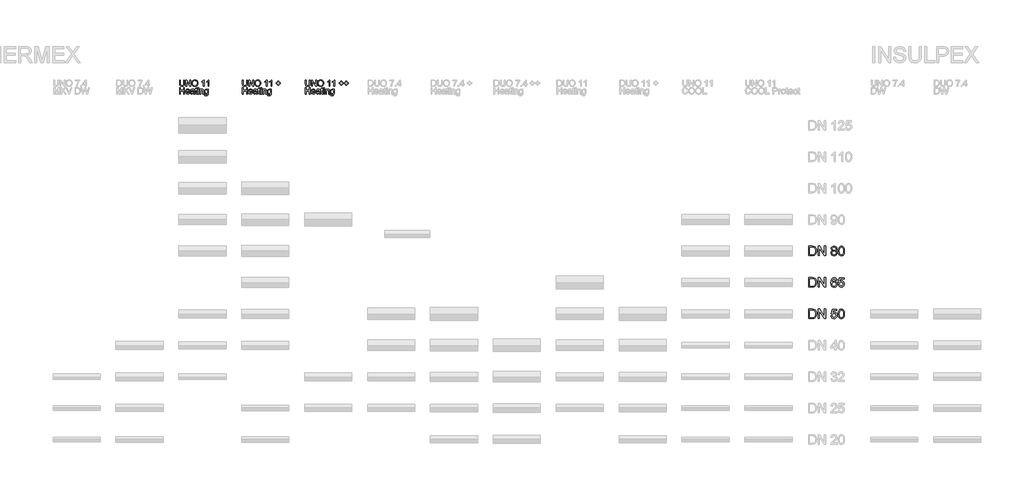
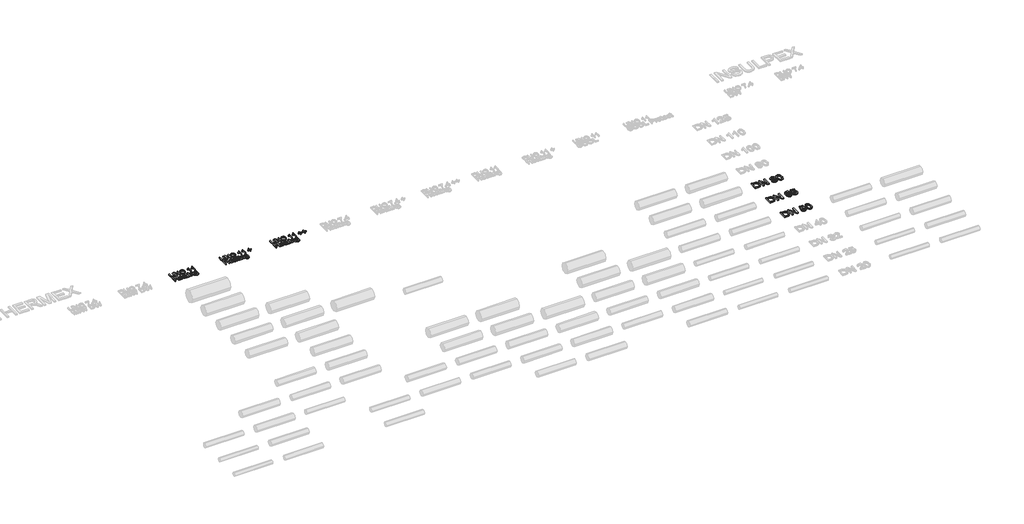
# One storey, part 31 of 44: 6 proxies.
"""IFC4 building model written with IfcOpenShell, lengths in millimetres."""

from ifc_helpers import new_model, si_unit, origin, origin_with_axes, place, context, project, spatial, polyline, outline, extrude, element, save

model = new_model("IFC4")

# Units and contexts
model_context = context("Model", 3, world=origin())
ifc_project = project(units=[si_unit("LENGTHUNIT", "METRE", prefix="MILLI")], contexts=[model_context])

# Site, building, storey
site = spatial("IfcSite", under=ifc_project)
building = spatial("IfcBuilding", under=site)
storey = spatial("IfcBuildingStorey", under=building, Name="REHAU Starting view", Elevation=0.0)

# Proxies
placement = place(None, origin())
element("IfcBuildingElementProxy", 1, Name="100", ObjectType="100", at=placement, inside=storey, context=model_context, shape_type="SweptSolid", body=[
    extrude(outline(polyline([(5076.9118625, 20222.431128), (5089.4689012, 20222.431128), (5089.4689012, 20164.477451), (5086.0598614, 20140.4547567), (5073.7726028, 20125.9847316), (5063.5086951, 20121.8000739), (5050.4734097, 20120.405188), (5027.529836, 20125.2612303), (5019.8901532, 20131.2055902), (5014.8011189, 20139.3265853), (5010.9874089, 20164.477451), (5010.9874089, 20222.431128), (5023.5444477, 20222.431128), (5023.5444477, 20164.9189094), (5026.0215198, 20145.7767829), (5034.5318566, 20136.2976902), (5049.2961874, 20132.9622268), (5062.067824, 20134.6115644), (5070.5597667, 20139.5595772), (5075.3238385, 20149.1980855), (5076.9118625, 20164.9189094), (5076.9118625, 20222.431128)])), origin_with_axes(), (0.0, 0.0, 1.0), 20.0),
    extrude(outline(polyline([(5111.4437191, 20121.9748178), (5111.4437191, 20222.431128), (5124.8836746, 20222.431128), (5177.3681726, 20142.8459897), (5177.3681726, 20222.431128), (5189.9252114, 20222.431128), (5189.9252114, 20121.9748178), (5176.4852558, 20121.9748178), (5124.0007578, 20201.5844816), (5124.0007578, 20121.9748178), (5111.4437191, 20121.9748178)])), origin_with_axes(), (0.0, 0.0, 1.0), 20.0),
    extrude(outline(polyline([(5207.1911397, 20170.8785977), (5210.5388658, 20193.0925389), (5220.5820443, 20209.8986147), (5235.9165921, 20220.4752221), (5255.1384264, 20224.0007578), (5268.3147332, 20222.3452889), (5280.1298766, 20217.3788819), (5289.9400631, 20209.4510249), (5297.1014993, 20198.9112058), (5301.479295, 20186.2683279), (5302.9385603, 20172.0312947), (5301.402653, 20157.6041891), (5296.794931, 20144.7835015), (5289.369846, 20134.2252883), (5279.3818499, 20126.5856055), (5267.667874, 20121.9502924), (5255.06485, 20120.405188), (5241.6862081, 20122.1127736), (5229.8036197, 20127.2355304), (5220.0179586, 20135.3105402), (5212.9300988, 20145.8748848), (5207.1911397, 20170.8785977)]), holes=[polyline([(5219.7481785, 20170.7559704), (5222.2589731, 20155.0412778), (5229.7913569, 20143.0667189), (5241.1129253, 20135.4883498), (5254.9912736, 20132.9622268), (5269.071957, 20135.5128753), (5280.4119195, 20143.1648208), (5287.889121, 20155.5072617), (5290.3815215, 20172.1293965), (5286.1140904, 20192.8534156), (5273.6428907, 20206.575414), (5255.2120028, 20211.4437191), (5241.7046022, 20209.0984714), (5230.2205526, 20202.0627282), (5222.366272, 20189.5455433), (5219.7481785, 20170.7559704)])]), origin_with_axes(), (0.0, 0.0, 1.0), 20.0),
    extrude(outline(polyline([(5401.8252406, 20121.9748178), (5389.2682018, 20121.9748178), (5389.2682018, 20200.2601064), (5377.3733507, 20191.7865578), (5364.1541243, 20185.4467247), (5364.1541243, 20197.3170505), (5382.5604868, 20209.0647488), (5393.7318367, 20222.431128), (5401.8252406, 20222.431128), (5401.8252406, 20121.9748178)])), origin_with_axes(), (0.0, 0.0, 1.0), 20.0),
    extrude(outline(polyline([(5478.7371031, 20121.9748178), (5466.1800643, 20121.9748178), (5466.1800643, 20200.2601064), (5454.2852131, 20191.7865578), (5441.0659868, 20185.4467247), (5441.0659868, 20197.3170505), (5459.4723492, 20209.0647488), (5470.6436992, 20222.431128), (5478.7371031, 20222.431128), (5478.7371031, 20121.9748178)])), origin_with_axes(), (0.0, 0.0, 1.0), 20.0),
    extrude(outline(polyline([(5010.9874089, 20000.0), (5010.9874089, 20100.4563101), (5023.5444477, 20100.4563101), (5023.5444477, 20059.6459342), (5076.9118625, 20059.6459342), (5076.9118625, 20100.4563101), (5089.4689012, 20100.4563101), (5089.4689012, 20000.0), (5076.9118625, 20000.0), (5076.9118625, 20047.0888954), (5023.5444477, 20047.0888954), (5023.5444477, 20000.0), (5010.9874089, 20000.0)])), origin_with_axes(), (0.0, 0.0, 1.0), 20.0),
    extrude(outline(polyline([(5161.5247213, 20021.9748178), (5173.8365055, 20020.405188), (5169.4004617, 20011.1284304), (5162.321799, 20004.1938547), (5152.7599328, 19999.8712413), (5140.8742787, 19998.4303702), (5126.1406048, 20000.9166393), (5114.803708, 20008.3754468), (5107.5748268, 20020.3224146), (5105.1651997, 20036.2731647), (5107.5993522, 20052.7604095), (5114.9018098, 20065.0905877), (5126.0854225, 20072.7793214), (5140.1630402, 20075.3422326), (5153.8022651, 20072.7854527), (5164.7007692, 20065.1151131), (5171.846877, 20052.8094604), (5174.2289129, 20036.3467411), (5174.1553365, 20032.9622268), (5117.7222385, 20032.9622268), (5119.8958079, 20023.5628418), (5124.9449883, 20016.6527916), (5132.2321175, 20012.4037546), (5141.1195333, 20010.9874089), (5153.4313175, 20013.6116338), (5161.5247213, 20021.9748178)]), holes=[polyline([(5117.7222385, 20045.5192655), (5161.6718741, 20045.5192655), (5156.6441535, 20056.8990819), (5149.3233018, 20061.3136659), (5140.1139892, 20062.7851938), (5124.6506827, 20058.088567), (5119.7854433, 20052.5979283), (5117.7222385, 20045.5192655)])]), origin_with_axes(), (0.0, 0.0, 1.0), 20.0),
    extrude(outline(polyline([(5233.8748471, 20009.4177791), (5221.697953, 20000.9074423), (5208.2457347, 19998.4303702), (5197.7519008, 19999.9202922), (5190.0110505, 20004.3900585), (5185.2377816, 20011.1774813), (5183.646692, 20019.6203731), (5186.0501877, 20029.5531869), (5192.3654953, 20036.7636741), (5201.157875, 20040.8839524), (5212.0226566, 20042.7724133), (5233.8012707, 20047.0888954), (5233.8748471, 20049.8847985), (5230.4167563, 20059.1554248), (5216.5353424, 20062.7851938), (5203.8311508, 20060.3694354), (5197.7733606, 20051.7977849), (5185.2163218, 20053.3674148), (5190.6487126, 20065.6301479), (5201.5870706, 20072.8161096), (5218.1540231, 20075.3422326), (5233.372075, 20073.1104152), (5241.968251, 20067.5063461), (5245.8187492, 20058.9837466), (5246.4318858, 20047.9963376), (5246.4318858, 20032.3736156), (5247.069548, 20010.5582133), (5249.5711455, 20000.0), (5237.0141068, 20000.0), (5233.8748471, 20009.4177791)]), holes=[polyline([(5233.8748471, 20034.5318566), (5213.6168119, 20030.6813584), (5202.8133439, 20028.6457447), (5197.9205134, 20025.3348067), (5196.2037308, 20020.5032899), (5199.9438644, 20013.7097357), (5210.9190106, 20010.9874089), (5223.6232021, 20013.9917785), (5231.8147079, 20021.2635793), (5233.8012707, 20030.975664), (5233.8748471, 20034.5318566)])]), origin_with_axes(), (0.0, 0.0, 1.0), 20.0),
    extrude(outline(polyline([(5290.3815215, 20010.4723741), (5291.9511514, 19999.632118), (5282.5578978, 19998.4303702), (5272.0364727, 20000.5150348), (5266.7880229, 20005.9842138), (5265.267444, 20020.2335097), (5265.267444, 20061.215564), (5255.8496649, 20061.215564), (5255.8496649, 20073.7726028), (5265.267444, 20073.7726028), (5265.267444, 20091.7007187), (5277.8244828, 20099.082884), (5277.8244828, 20073.7726028), (5290.3815215, 20073.7726028), (5290.3815215, 20061.215564), (5277.8244828, 20061.215564), (5277.8244828, 20020.6013917), (5278.4866703, 20014.1266686), (5280.6326487, 20011.8335375), (5284.9123425, 20010.9874089), (5290.3815215, 20010.4723741)])), origin_with_axes(), (0.0, 0.0, 1.0), 20.0),
    extrude(outline(polyline([(5302.9385603, 20087.8992714), (5302.9385603, 20100.4563101), (5315.4955991, 20100.4563101), (5315.4955991, 20087.8992714), (5302.9385603, 20087.8992714)])), origin_with_axes(), (0.0, 0.0, 1.0), 20.0),
    extrude(outline(polyline([(5302.9385603, 20000.0), (5302.9385603, 20073.7726028), (5315.4955991, 20073.7726028), (5315.4955991, 20000.0), (5302.9385603, 20000.0)])), origin_with_axes(), (0.0, 0.0, 1.0), 20.0),
    extrude(outline(polyline([(5334.3311572, 20000.0), (5334.3311572, 20073.7726028), (5346.888196, 20073.7726028), (5346.888196, 20063.4719069), (5356.4899161, 20072.3746512), (5369.5987778, 20075.3422326), (5381.4568408, 20072.9509996), (5389.5502447, 20066.6724803), (5393.3149038, 20057.4386422), (5393.9770914, 20045.2985363), (5393.9770914, 20000.0), (5381.4200526, 20000.0), (5381.4200526, 20043.6062792), (5379.9730501, 20054.7163154), (5374.8594904, 20060.5901646), (5366.2387889, 20062.7851938), (5352.6148924, 20057.8555751), (5348.3198701, 20050.712533), (5346.888196, 20039.1426443), (5346.888196, 20000.0), (5334.3311572, 20000.0)])), origin_with_axes(), (0.0, 0.0, 1.0), 20.0),
    extrude(outline(polyline([(5408.10376, 19993.7214806), (5420.6607988, 19992.1518508), (5424.7320262, 19985.5299749), (5436.9211829, 19982.7340717), (5449.7725273, 19985.8978569), (5455.9038939, 19994.7760757), (5456.7622852, 20009.4177791), (5447.9208546, 20002.3544448), (5437.1419121, 20000.0), (5424.1955316, 20002.7407209), (5414.5416949, 20010.9628835), (5408.5360213, 20023.0171502), (5406.5341301, 20037.2541834), (5410.127111, 20056.7151409), (5420.5259087, 20070.4861903), (5436.5287755, 20075.3422326), (5447.7307822, 20072.5953804), (5456.7622852, 20064.3548237), (5456.7622852, 20073.7726028), (5469.319324, 20073.7726028), (5469.319324, 20010.0799667), (5465.8857587, 19985.6893904), (5455.0087144, 19974.3463622), (5436.6759283, 19970.1770329), (5424.9926092, 19971.6454952), (5415.7924937, 19976.0508821), (5409.8910533, 19983.4054563), (5408.10376, 19993.7214806)]), holes=[polyline([(5419.0911689, 20038.1125747), (5420.4308725, 20026.5948026), (5424.4499833, 20018.6761426), (5430.4924451, 20014.0868147), (5437.9022016, 20012.5570388), (5445.2567758, 20014.0776177), (5451.3298944, 20018.6393544), (5455.4041875, 20026.4568468), (5456.7622852, 20037.7446927), (5455.3643336, 20048.6309341), (5451.1704789, 20056.4698863), (5445.0084555, 20061.2063669), (5437.7059979, 20062.7851938), (5430.5353646, 20061.2308924), (5424.5235597, 20056.5679881), (5420.4492666, 20048.8455319), (5419.0911689, 20038.1125747)])]), origin_with_axes(), (0.0, 0.0, 1.0), 20.0),
])
element("IfcBuildingElementProxy", 2, Name="100", ObjectType="100", at=placement, inside=storey, context=model_context, shape_type="SweptSolid", body=[
    extrude(outline(polyline([(6076.9118625, 20222.431128), (6089.4689012, 20222.431128), (6089.4689012, 20164.477451), (6086.0598614, 20140.4547567), (6073.7726028, 20125.9847316), (6063.5086951, 20121.8000739), (6050.4734097, 20120.405188), (6027.529836, 20125.2612303), (6019.8901532, 20131.2055902), (6014.8011189, 20139.3265853), (6010.9874089, 20164.477451), (6010.9874089, 20222.431128), (6023.5444477, 20222.431128), (6023.5444477, 20164.9189094), (6026.0215198, 20145.7767829), (6034.5318566, 20136.2976902), (6049.2961874, 20132.9622268), (6062.067824, 20134.6115644), (6070.5597667, 20139.5595772), (6075.3238385, 20149.1980855), (6076.9118625, 20164.9189094), (6076.9118625, 20222.431128)])), origin_with_axes(), (0.0, 0.0, 1.0), 20.0),
    extrude(outline(polyline([(6111.4437191, 20121.9748178), (6111.4437191, 20222.431128), (6124.8836746, 20222.431128), (6177.3681726, 20142.8459897), (6177.3681726, 20222.431128), (6189.9252114, 20222.431128), (6189.9252114, 20121.9748178), (6176.4852558, 20121.9748178), (6124.0007578, 20201.5844816), (6124.0007578, 20121.9748178), (6111.4437191, 20121.9748178)])), origin_with_axes(), (0.0, 0.0, 1.0), 20.0),
    extrude(outline(polyline([(6207.1911397, 20170.8785977), (6210.5388658, 20193.0925389), (6220.5820443, 20209.8986147), (6235.9165921, 20220.4752221), (6255.1384264, 20224.0007578), (6268.3147332, 20222.3452889), (6280.1298766, 20217.3788819), (6289.9400631, 20209.4510249), (6297.1014993, 20198.9112058), (6301.479295, 20186.2683279), (6302.9385603, 20172.0312947), (6301.402653, 20157.6041891), (6296.794931, 20144.7835015), (6289.369846, 20134.2252883), (6279.3818499, 20126.5856055), (6267.667874, 20121.9502924), (6255.06485, 20120.405188), (6241.6862081, 20122.1127736), (6229.8036197, 20127.2355304), (6220.0179586, 20135.3105402), (6212.9300988, 20145.8748848), (6207.1911397, 20170.8785977)]), holes=[polyline([(6219.7481785, 20170.7559704), (6222.2589731, 20155.0412778), (6229.7913569, 20143.0667189), (6241.1129253, 20135.4883498), (6254.9912736, 20132.9622268), (6269.071957, 20135.5128753), (6280.4119195, 20143.1648208), (6287.889121, 20155.5072617), (6290.3815215, 20172.1293965), (6286.1140904, 20192.8534156), (6273.6428907, 20206.575414), (6255.2120028, 20211.4437191), (6241.7046022, 20209.0984714), (6230.2205526, 20202.0627282), (6222.366272, 20189.5455433), (6219.7481785, 20170.7559704)])]), origin_with_axes(), (0.0, 0.0, 1.0), 20.0),
    extrude(outline(polyline([(6401.8252406, 20121.9748178), (6389.2682018, 20121.9748178), (6389.2682018, 20200.2601064), (6377.3733507, 20191.7865578), (6364.1541243, 20185.4467247), (6364.1541243, 20197.3170505), (6382.5604868, 20209.0647488), (6393.7318367, 20222.431128), (6401.8252406, 20222.431128), (6401.8252406, 20121.9748178)])), origin_with_axes(), (0.0, 0.0, 1.0), 20.0),
    extrude(outline(polyline([(6478.7371031, 20121.9748178), (6466.1800643, 20121.9748178), (6466.1800643, 20200.2601064), (6454.2852131, 20191.7865578), (6441.0659868, 20185.4467247), (6441.0659868, 20197.3170505), (6459.4723492, 20209.0647488), (6470.6436992, 20222.431128), (6478.7371031, 20222.431128), (6478.7371031, 20121.9748178)])), origin_with_axes(), (0.0, 0.0, 1.0), 20.0),
    extrude(outline(polyline([(6576.0541535, 20137.6711163), (6576.0541535, 20164.3548237), (6549.3704461, 20164.3548237), (6549.3704461, 20176.9118625), (6576.0541535, 20176.9118625), (6576.0541535, 20203.5955698), (6588.6111923, 20203.5955698), (6588.6111923, 20176.9118625), (6615.2948997, 20176.9118625), (6615.2948997, 20164.3548237), (6588.6111923, 20164.3548237), (6588.6111923, 20137.6711163), (6576.0541535, 20137.6711163)])), origin_with_axes(), (0.0, 0.0, 1.0), 20.0),
    extrude(outline(polyline([(6010.9874089, 20000.0), (6010.9874089, 20100.4563101), (6023.5444477, 20100.4563101), (6023.5444477, 20059.6459342), (6076.9118625, 20059.6459342), (6076.9118625, 20100.4563101), (6089.4689012, 20100.4563101), (6089.4689012, 20000.0), (6076.9118625, 20000.0), (6076.9118625, 20047.0888954), (6023.5444477, 20047.0888954), (6023.5444477, 20000.0), (6010.9874089, 20000.0)])), origin_with_axes(), (0.0, 0.0, 1.0), 20.0),
    extrude(outline(polyline([(6161.5247213, 20021.9748178), (6173.8365055, 20020.405188), (6169.4004617, 20011.1284304), (6162.321799, 20004.1938547), (6152.7599328, 19999.8712413), (6140.8742787, 19998.4303702), (6126.1406048, 20000.9166393), (6114.803708, 20008.3754468), (6107.5748268, 20020.3224146), (6105.1651997, 20036.2731647), (6107.5993522, 20052.7604095), (6114.9018098, 20065.0905877), (6126.0854225, 20072.7793214), (6140.1630402, 20075.3422326), (6153.8022651, 20072.7854527), (6164.7007692, 20065.1151131), (6171.846877, 20052.8094604), (6174.2289129, 20036.3467411), (6174.1553365, 20032.9622268), (6117.7222385, 20032.9622268), (6119.8958079, 20023.5628418), (6124.9449883, 20016.6527916), (6132.2321175, 20012.4037546), (6141.1195333, 20010.9874089), (6153.4313175, 20013.6116338), (6161.5247213, 20021.9748178)]), holes=[polyline([(6117.7222385, 20045.5192655), (6161.6718741, 20045.5192655), (6156.6441535, 20056.8990819), (6149.3233018, 20061.3136659), (6140.1139892, 20062.7851938), (6124.6506827, 20058.088567), (6119.7854433, 20052.5979283), (6117.7222385, 20045.5192655)])]), origin_with_axes(), (0.0, 0.0, 1.0), 20.0),
    extrude(outline(polyline([(6233.8748471, 20009.4177791), (6221.697953, 20000.9074423), (6208.2457347, 19998.4303702), (6197.7519008, 19999.9202922), (6190.0110505, 20004.3900585), (6185.2377816, 20011.1774813), (6183.646692, 20019.6203731), (6186.0501877, 20029.5531869), (6192.3654953, 20036.7636741), (6201.157875, 20040.8839524), (6212.0226566, 20042.7724133), (6233.8012707, 20047.0888954), (6233.8748471, 20049.8847985), (6230.4167563, 20059.1554248), (6216.5353424, 20062.7851938), (6203.8311508, 20060.3694354), (6197.7733606, 20051.7977849), (6185.2163218, 20053.3674148), (6190.6487126, 20065.6301479), (6201.5870706, 20072.8161096), (6218.1540231, 20075.3422326), (6233.372075, 20073.1104152), (6241.968251, 20067.5063461), (6245.8187492, 20058.9837466), (6246.4318858, 20047.9963376), (6246.4318858, 20032.3736156), (6247.069548, 20010.5582133), (6249.5711455, 20000.0), (6237.0141068, 20000.0), (6233.8748471, 20009.4177791)]), holes=[polyline([(6233.8748471, 20034.5318566), (6213.6168119, 20030.6813584), (6202.8133439, 20028.6457447), (6197.9205134, 20025.3348067), (6196.2037308, 20020.5032899), (6199.9438644, 20013.7097357), (6210.9190106, 20010.9874089), (6223.6232021, 20013.9917785), (6231.8147079, 20021.2635793), (6233.8012707, 20030.975664), (6233.8748471, 20034.5318566)])]), origin_with_axes(), (0.0, 0.0, 1.0), 20.0),
    extrude(outline(polyline([(6290.3815215, 20010.4723741), (6291.9511514, 19999.632118), (6282.5578978, 19998.4303702), (6272.0364727, 20000.5150348), (6266.7880229, 20005.9842138), (6265.267444, 20020.2335097), (6265.267444, 20061.215564), (6255.8496649, 20061.215564), (6255.8496649, 20073.7726028), (6265.267444, 20073.7726028), (6265.267444, 20091.7007187), (6277.8244828, 20099.082884), (6277.8244828, 20073.7726028), (6290.3815215, 20073.7726028), (6290.3815215, 20061.215564), (6277.8244828, 20061.215564), (6277.8244828, 20020.6013917), (6278.4866703, 20014.1266686), (6280.6326487, 20011.8335375), (6284.9123425, 20010.9874089), (6290.3815215, 20010.4723741)])), origin_with_axes(), (0.0, 0.0, 1.0), 20.0),
    extrude(outline(polyline([(6302.9385603, 20087.8992714), (6302.9385603, 20100.4563101), (6315.4955991, 20100.4563101), (6315.4955991, 20087.8992714), (6302.9385603, 20087.8992714)])), origin_with_axes(), (0.0, 0.0, 1.0), 20.0),
    extrude(outline(polyline([(6302.9385603, 20000.0), (6302.9385603, 20073.7726028), (6315.4955991, 20073.7726028), (6315.4955991, 20000.0), (6302.9385603, 20000.0)])), origin_with_axes(), (0.0, 0.0, 1.0), 20.0),
    extrude(outline(polyline([(6334.3311572, 20000.0), (6334.3311572, 20073.7726028), (6346.888196, 20073.7726028), (6346.888196, 20063.4719069), (6356.4899161, 20072.3746512), (6369.5987778, 20075.3422326), (6381.4568408, 20072.9509996), (6389.5502447, 20066.6724803), (6393.3149038, 20057.4386422), (6393.9770914, 20045.2985363), (6393.9770914, 20000.0), (6381.4200526, 20000.0), (6381.4200526, 20043.6062792), (6379.9730501, 20054.7163154), (6374.8594904, 20060.5901646), (6366.2387889, 20062.7851938), (6352.6148924, 20057.8555751), (6348.3198701, 20050.712533), (6346.888196, 20039.1426443), (6346.888196, 20000.0), (6334.3311572, 20000.0)])), origin_with_axes(), (0.0, 0.0, 1.0), 20.0),
    extrude(outline(polyline([(6408.10376, 19993.7214806), (6420.6607988, 19992.1518508), (6424.7320262, 19985.5299749), (6436.9211829, 19982.7340717), (6449.7725273, 19985.8978569), (6455.9038939, 19994.7760757), (6456.7622852, 20009.4177791), (6447.9208546, 20002.3544448), (6437.1419121, 20000.0), (6424.1955316, 20002.7407209), (6414.5416949, 20010.9628835), (6408.5360213, 20023.0171502), (6406.5341301, 20037.2541834), (6410.127111, 20056.7151409), (6420.5259087, 20070.4861903), (6436.5287755, 20075.3422326), (6447.7307822, 20072.5953804), (6456.7622852, 20064.3548237), (6456.7622852, 20073.7726028), (6469.319324, 20073.7726028), (6469.319324, 20010.0799667), (6465.8857587, 19985.6893904), (6455.0087144, 19974.3463622), (6436.6759283, 19970.1770329), (6424.9926092, 19971.6454952), (6415.7924937, 19976.0508821), (6409.8910533, 19983.4054563), (6408.10376, 19993.7214806)]), holes=[polyline([(6419.0911689, 20038.1125747), (6420.4308725, 20026.5948026), (6424.4499833, 20018.6761426), (6430.4924451, 20014.0868147), (6437.9022016, 20012.5570388), (6445.2567758, 20014.0776177), (6451.3298944, 20018.6393544), (6455.4041875, 20026.4568468), (6456.7622852, 20037.7446927), (6455.3643336, 20048.6309341), (6451.1704789, 20056.4698863), (6445.0084555, 20061.2063669), (6437.7059979, 20062.7851938), (6430.5353646, 20061.2308924), (6424.5235597, 20056.5679881), (6420.4492666, 20048.8455319), (6419.0911689, 20038.1125747)])]), origin_with_axes(), (0.0, 0.0, 1.0), 20.0),
])
element("IfcBuildingElementProxy", 3, Name="100", ObjectType="100", at=placement, inside=storey, context=model_context, shape_type="SweptSolid", body=[
    extrude(outline(polyline([(7076.9118625, 20222.431128), (7089.4689012, 20222.431128), (7089.4689012, 20164.477451), (7086.0598614, 20140.4547567), (7073.7726028, 20125.9847316), (7063.5086951, 20121.8000739), (7050.4734097, 20120.405188), (7027.529836, 20125.2612303), (7019.8901532, 20131.2055902), (7014.8011189, 20139.3265853), (7010.9874089, 20164.477451), (7010.9874089, 20222.431128), (7023.5444477, 20222.431128), (7023.5444477, 20164.9189094), (7026.0215198, 20145.7767829), (7034.5318566, 20136.2976902), (7049.2961874, 20132.9622268), (7062.067824, 20134.6115644), (7070.5597667, 20139.5595772), (7075.3238385, 20149.1980855), (7076.9118625, 20164.9189094), (7076.9118625, 20222.431128)])), origin_with_axes(), (0.0, 0.0, 1.0), 20.0),
    extrude(outline(polyline([(7111.4437191, 20121.9748178), (7111.4437191, 20222.431128), (7124.8836746, 20222.431128), (7177.3681726, 20142.8459897), (7177.3681726, 20222.431128), (7189.9252114, 20222.431128), (7189.9252114, 20121.9748178), (7176.4852558, 20121.9748178), (7124.0007578, 20201.5844816), (7124.0007578, 20121.9748178), (7111.4437191, 20121.9748178)])), origin_with_axes(), (0.0, 0.0, 1.0), 20.0),
    extrude(outline(polyline([(7207.1911397, 20170.8785977), (7210.5388658, 20193.0925389), (7220.5820443, 20209.8986147), (7235.9165921, 20220.4752221), (7255.1384264, 20224.0007578), (7268.3147332, 20222.3452889), (7280.1298766, 20217.3788819), (7289.9400631, 20209.4510249), (7297.1014993, 20198.9112058), (7301.479295, 20186.2683279), (7302.9385603, 20172.0312947), (7301.402653, 20157.6041891), (7296.794931, 20144.7835015), (7289.369846, 20134.2252883), (7279.3818499, 20126.5856055), (7267.667874, 20121.9502924), (7255.06485, 20120.405188), (7241.6862081, 20122.1127736), (7229.8036197, 20127.2355304), (7220.0179586, 20135.3105402), (7212.9300988, 20145.8748848), (7207.1911397, 20170.8785977)]), holes=[polyline([(7219.7481785, 20170.7559704), (7222.2589731, 20155.0412778), (7229.7913569, 20143.0667189), (7241.1129253, 20135.4883498), (7254.9912736, 20132.9622268), (7269.071957, 20135.5128753), (7280.4119195, 20143.1648208), (7287.889121, 20155.5072617), (7290.3815215, 20172.1293965), (7286.1140904, 20192.8534156), (7273.6428907, 20206.575414), (7255.2120028, 20211.4437191), (7241.7046022, 20209.0984714), (7230.2205526, 20202.0627282), (7222.366272, 20189.5455433), (7219.7481785, 20170.7559704)])]), origin_with_axes(), (0.0, 0.0, 1.0), 20.0),
    extrude(outline(polyline([(7401.8252406, 20121.9748178), (7389.2682018, 20121.9748178), (7389.2682018, 20200.2601064), (7377.3733507, 20191.7865578), (7364.1541243, 20185.4467247), (7364.1541243, 20197.3170505), (7382.5604868, 20209.0647488), (7393.7318367, 20222.431128), (7401.8252406, 20222.431128), (7401.8252406, 20121.9748178)])), origin_with_axes(), (0.0, 0.0, 1.0), 20.0),
    extrude(outline(polyline([(7478.7371031, 20121.9748178), (7466.1800643, 20121.9748178), (7466.1800643, 20200.2601064), (7454.2852131, 20191.7865578), (7441.0659868, 20185.4467247), (7441.0659868, 20197.3170505), (7459.4723492, 20209.0647488), (7470.6436992, 20222.431128), (7478.7371031, 20222.431128), (7478.7371031, 20121.9748178)])), origin_with_axes(), (0.0, 0.0, 1.0), 20.0),
    extrude(outline(polyline([(7576.0541535, 20137.6711163), (7576.0541535, 20164.3548237), (7549.3704461, 20164.3548237), (7549.3704461, 20176.9118625), (7576.0541535, 20176.9118625), (7576.0541535, 20203.5955698), (7588.6111923, 20203.5955698), (7588.6111923, 20176.9118625), (7615.2948997, 20176.9118625), (7615.2948997, 20164.3548237), (7588.6111923, 20164.3548237), (7588.6111923, 20137.6711163), (7576.0541535, 20137.6711163)])), origin_with_axes(), (0.0, 0.0, 1.0), 20.0),
    extrude(outline(polyline([(7657.6749055, 20137.6711163), (7657.6749055, 20164.3548237), (7630.9911981, 20164.3548237), (7630.9911981, 20176.9118625), (7657.6749055, 20176.9118625), (7657.6749055, 20203.5955698), (7670.2319443, 20203.5955698), (7670.2319443, 20176.9118625), (7696.9156517, 20176.9118625), (7696.9156517, 20164.3548237), (7670.2319443, 20164.3548237), (7670.2319443, 20137.6711163), (7657.6749055, 20137.6711163)])), origin_with_axes(), (0.0, 0.0, 1.0), 20.0),
    extrude(outline(polyline([(7010.9874089, 20000.0), (7010.9874089, 20100.4563101), (7023.5444477, 20100.4563101), (7023.5444477, 20059.6459342), (7076.9118625, 20059.6459342), (7076.9118625, 20100.4563101), (7089.4689012, 20100.4563101), (7089.4689012, 20000.0), (7076.9118625, 20000.0), (7076.9118625, 20047.0888954), (7023.5444477, 20047.0888954), (7023.5444477, 20000.0), (7010.9874089, 20000.0)])), origin_with_axes(), (0.0, 0.0, 1.0), 20.0),
    extrude(outline(polyline([(7161.5247213, 20021.9748178), (7173.8365055, 20020.405188), (7169.4004617, 20011.1284304), (7162.321799, 20004.1938547), (7152.7599328, 19999.8712413), (7140.8742787, 19998.4303702), (7126.1406048, 20000.9166393), (7114.803708, 20008.3754468), (7107.5748268, 20020.3224146), (7105.1651997, 20036.2731647), (7107.5993522, 20052.7604095), (7114.9018098, 20065.0905877), (7126.0854225, 20072.7793214), (7140.1630402, 20075.3422326), (7153.8022651, 20072.7854527), (7164.7007692, 20065.1151131), (7171.846877, 20052.8094604), (7174.2289129, 20036.3467411), (7174.1553365, 20032.9622268), (7117.7222385, 20032.9622268), (7119.8958079, 20023.5628418), (7124.9449883, 20016.6527916), (7132.2321175, 20012.4037546), (7141.1195333, 20010.9874089), (7153.4313175, 20013.6116338), (7161.5247213, 20021.9748178)]), holes=[polyline([(7117.7222385, 20045.5192655), (7161.6718741, 20045.5192655), (7156.6441535, 20056.8990819), (7149.3233018, 20061.3136659), (7140.1139892, 20062.7851938), (7124.6506827, 20058.088567), (7119.7854433, 20052.5979283), (7117.7222385, 20045.5192655)])]), origin_with_axes(), (0.0, 0.0, 1.0), 20.0),
    extrude(outline(polyline([(7233.8748471, 20009.4177791), (7221.697953, 20000.9074423), (7208.2457347, 19998.4303702), (7197.7519008, 19999.9202922), (7190.0110505, 20004.3900585), (7185.2377816, 20011.1774813), (7183.646692, 20019.6203731), (7186.0501877, 20029.5531869), (7192.3654953, 20036.7636741), (7201.157875, 20040.8839524), (7212.0226566, 20042.7724133), (7233.8012707, 20047.0888954), (7233.8748471, 20049.8847985), (7230.4167563, 20059.1554248), (7216.5353424, 20062.7851938), (7203.8311508, 20060.3694354), (7197.7733606, 20051.7977849), (7185.2163218, 20053.3674148), (7190.6487126, 20065.6301479), (7201.5870706, 20072.8161096), (7218.1540231, 20075.3422326), (7233.372075, 20073.1104152), (7241.968251, 20067.5063461), (7245.8187492, 20058.9837466), (7246.4318858, 20047.9963376), (7246.4318858, 20032.3736156), (7247.069548, 20010.5582133), (7249.5711455, 20000.0), (7237.0141068, 20000.0), (7233.8748471, 20009.4177791)]), holes=[polyline([(7233.8748471, 20034.5318566), (7213.6168119, 20030.6813584), (7202.8133439, 20028.6457447), (7197.9205134, 20025.3348067), (7196.2037308, 20020.5032899), (7199.9438644, 20013.7097357), (7210.9190106, 20010.9874089), (7223.6232021, 20013.9917785), (7231.8147079, 20021.2635793), (7233.8012707, 20030.975664), (7233.8748471, 20034.5318566)])]), origin_with_axes(), (0.0, 0.0, 1.0), 20.0),
    extrude(outline(polyline([(7290.3815215, 20010.4723741), (7291.9511514, 19999.632118), (7282.5578978, 19998.4303702), (7272.0364727, 20000.5150348), (7266.7880229, 20005.9842138), (7265.267444, 20020.2335097), (7265.267444, 20061.215564), (7255.8496649, 20061.215564), (7255.8496649, 20073.7726028), (7265.267444, 20073.7726028), (7265.267444, 20091.7007187), (7277.8244828, 20099.082884), (7277.8244828, 20073.7726028), (7290.3815215, 20073.7726028), (7290.3815215, 20061.215564), (7277.8244828, 20061.215564), (7277.8244828, 20020.6013917), (7278.4866703, 20014.1266686), (7280.6326487, 20011.8335375), (7284.9123425, 20010.9874089), (7290.3815215, 20010.4723741)])), origin_with_axes(), (0.0, 0.0, 1.0), 20.0),
    extrude(outline(polyline([(7302.9385603, 20087.8992714), (7302.9385603, 20100.4563101), (7315.4955991, 20100.4563101), (7315.4955991, 20087.8992714), (7302.9385603, 20087.8992714)])), origin_with_axes(), (0.0, 0.0, 1.0), 20.0),
    extrude(outline(polyline([(7302.9385603, 20000.0), (7302.9385603, 20073.7726028), (7315.4955991, 20073.7726028), (7315.4955991, 20000.0), (7302.9385603, 20000.0)])), origin_with_axes(), (0.0, 0.0, 1.0), 20.0),
    extrude(outline(polyline([(7334.3311572, 20000.0), (7334.3311572, 20073.7726028), (7346.888196, 20073.7726028), (7346.888196, 20063.4719069), (7356.4899161, 20072.3746512), (7369.5987778, 20075.3422326), (7381.4568408, 20072.9509996), (7389.5502447, 20066.6724803), (7393.3149038, 20057.4386422), (7393.9770914, 20045.2985363), (7393.9770914, 20000.0), (7381.4200526, 20000.0), (7381.4200526, 20043.6062792), (7379.9730501, 20054.7163154), (7374.8594904, 20060.5901646), (7366.2387889, 20062.7851938), (7352.6148924, 20057.8555751), (7348.3198701, 20050.712533), (7346.888196, 20039.1426443), (7346.888196, 20000.0), (7334.3311572, 20000.0)])), origin_with_axes(), (0.0, 0.0, 1.0), 20.0),
    extrude(outline(polyline([(7408.10376, 19993.7214806), (7420.6607988, 19992.1518508), (7424.7320262, 19985.5299749), (7436.9211829, 19982.7340717), (7449.7725273, 19985.8978569), (7455.9038939, 19994.7760757), (7456.7622852, 20009.4177791), (7447.9208546, 20002.3544448), (7437.1419121, 20000.0), (7424.1955316, 20002.7407209), (7414.5416949, 20010.9628835), (7408.5360213, 20023.0171502), (7406.5341301, 20037.2541834), (7410.127111, 20056.7151409), (7420.5259087, 20070.4861903), (7436.5287755, 20075.3422326), (7447.7307822, 20072.5953804), (7456.7622852, 20064.3548237), (7456.7622852, 20073.7726028), (7469.319324, 20073.7726028), (7469.319324, 20010.0799667), (7465.8857587, 19985.6893904), (7455.0087144, 19974.3463622), (7436.6759283, 19970.1770329), (7424.9926092, 19971.6454952), (7415.7924937, 19976.0508821), (7409.8910533, 19983.4054563), (7408.10376, 19993.7214806)]), holes=[polyline([(7419.0911689, 20038.1125747), (7420.4308725, 20026.5948026), (7424.4499833, 20018.6761426), (7430.4924451, 20014.0868147), (7437.9022016, 20012.5570388), (7445.2567758, 20014.0776177), (7451.3298944, 20018.6393544), (7455.4041875, 20026.4568468), (7456.7622852, 20037.7446927), (7455.3643336, 20048.6309341), (7451.1704789, 20056.4698863), (7445.0084555, 20061.2063669), (7437.7059979, 20062.7851938), (7430.5353646, 20061.2308924), (7424.5235597, 20056.5679881), (7420.4492666, 20048.8455319), (7419.0911689, 20038.1125747)])]), origin_with_axes(), (0.0, 0.0, 1.0), 20.0),
])
element("IfcBuildingElementProxy", 4, Name="150", ObjectType="150", at=placement, inside=storey, context=model_context, shape_type="SweptSolid", body=[
    extrude(outline(polyline([(15016.4811134, 16425.0), (15016.4811134, 16575.6844652), (15068.4628393, 16575.6844652), (15095.3550131, 16573.5139615), (15117.5015093, 16562.735019), (15127.9217668, 16551.2571007), (15135.343786, 16536.9832793), (15139.7859611, 16520.1894663), (15141.2666861, 16501.151573), (15137.2567724, 16470.7461261), (15126.9560765, 16448.8019651), (15113.1972899, 16435.135149), (15095.1894663, 16427.575174), (15070.9644369, 16425.0), (15016.4811134, 16425.0)]), holes=[polyline([(15035.3166715, 16443.8355582), (15068.6467803, 16443.8355582), (15092.8902038, 16446.5578849), (15106.8697196, 16454.2466186), (15118.3292437, 16472.9534181), (15122.431128, 16501.4458786), (15120.4215726, 16521.9736939), (15114.3929064, 16537.1304321), (15105.4855636, 16547.5414926), (15094.8399784, 16553.8322747), (15068.1317455, 16556.8489071), (15035.3166715, 16556.8489071), (15035.3166715, 16443.8355582)])]), origin_with_axes(), (0.0, 0.0, 1.0), 20.0),
    extrude(outline(polyline([(15167.1655786, 16425.0), (15167.1655786, 16575.6844652), (15187.3255119, 16575.6844652), (15266.0522589, 16456.3067578), (15266.0522589, 16575.6844652), (15284.8878171, 16575.6844652), (15284.8878171, 16425.0), (15264.7278837, 16425.0), (15186.0011368, 16544.4144956), (15186.0011368, 16425.0), (15167.1655786, 16425.0)])), origin_with_axes(), (0.0, 0.0, 1.0), 20.0),
    extrude(outline(polyline([(15369.6478288, 16465.0255611), (15388.4833869, 16467.3800058), (15391.9414777, 16456.072233), (15397.9747424, 16447.9742306), (15406.5555899, 16443.1043927), (15417.6564291, 16441.4811134), (15431.1576983, 16443.7389891), (15441.2744532, 16450.5126164), (15447.5928265, 16461.0202459), (15449.6989509, 16474.4801284), (15447.7261837, 16487.1536631), (15441.8078821, 16496.8473537), (15431.8980609, 16503.00018), (15417.9507347, 16505.0511222), (15401.414439, 16501.7769724), (15390.8378317, 16493.2788983), (15372.0022735, 16495.6333431), (15388.4833869, 16573.3300205), (15461.4711747, 16573.3300205), (15461.4711747, 16554.4944623), (15403.7137015, 16554.4944623), (15395.6570858, 16512.9973732), (15409.1123698, 16521.1643535), (15423.2114473, 16523.8866803), (15440.8100022, 16520.511363), (15455.4195159, 16510.3854111), (15465.2557608, 16494.9527614), (15468.5345091, 16475.6573507), (15465.582256, 16456.8217926), (15456.725497, 16440.7085612), (15439.766137, 16427.1613067), (15417.5828527, 16422.6455552), (15399.0829869, 16425.5472245), (15384.3447145, 16434.2522322), (15374.2417552, 16447.7489029), (15369.6478288, 16465.0255611)])), origin_with_axes(), (0.0, 0.0, 1.0), 20.0),
    extrude(outline(polyline([(15485.0156224, 16499.128222), (15486.3997784, 16523.2474853), (15490.5522465, 16542.4831152), (15497.4316398, 16557.1294171), (15506.9965717, 16567.4806967), (15519.31602, 16573.6335231), (15534.4589626, 16575.6844652), (15556.4583059, 16570.8284229), (15571.6518323, 16556.830513), (15580.4810002, 16534.5368641), (15583.9023027, 16499.128222), (15582.5319423, 16475.1469145), (15578.420861, 16455.9572699), (15571.5828544, 16441.2971724), (15562.0317181, 16430.904506), (15549.6846787, 16424.7102929), (15534.4589626, 16422.6455552), (15514.8876404, 16426.2324047), (15500.0252078, 16436.992953), (15488.7680188, 16462.4779783), (15485.0156224, 16499.128222)]), holes=[polyline([(15503.8511806, 16499.1650102), (15506.0584726, 16469.536714), (15512.6803485, 16452.3888145), (15522.5395859, 16444.2080387), (15534.4589626, 16441.4811134), (15546.3783392, 16444.2172357), (15556.2375767, 16452.4256027), (15562.8594526, 16469.5826993), (15565.0667446, 16499.1650102), (15562.933029, 16528.1265203), (15556.5318823, 16545.407777), (15546.6910389, 16553.9886246), (15534.2382334, 16556.8489071), (15522.4476155, 16554.3289154), (15512.9746541, 16546.7689404), (15506.132049, 16528.4116288), (15503.8511806, 16499.1650102)])]), origin_with_axes(), (0.0, 0.0, 1.0), 20.0),
])
element("IfcBuildingElementProxy", 5, Name="150", ObjectType="150", at=placement, inside=storey, context=model_context, shape_type="SweptSolid", body=[
    extrude(outline(polyline([(15016.4811134, 16925.0), (15016.4811134, 17075.6844652), (15068.4628393, 17075.6844652), (15095.3550131, 17073.5139615), (15117.5015093, 17062.735019), (15127.9217668, 17051.2571007), (15135.343786, 17036.9832793), (15139.7859611, 17020.1894663), (15141.2666861, 17001.151573), (15137.2567724, 16970.7461261), (15126.9560765, 16948.8019651), (15113.1972899, 16935.135149), (15095.1894663, 16927.575174), (15070.9644369, 16925.0), (15016.4811134, 16925.0)]), holes=[polyline([(15035.3166715, 16943.8355582), (15068.6467803, 16943.8355582), (15092.8902038, 16946.5578849), (15106.8697196, 16954.2466186), (15118.3292437, 16972.9534181), (15122.431128, 17001.4458786), (15120.4215726, 17021.9736939), (15114.3929064, 17037.1304321), (15105.4855636, 17047.5414926), (15094.8399784, 17053.8322747), (15068.1317455, 17056.8489071), (15035.3166715, 17056.8489071), (15035.3166715, 16943.8355582)])]), origin_with_axes(), (0.0, 0.0, 1.0), 20.0),
    extrude(outline(polyline([(15167.1655786, 16925.0), (15167.1655786, 17075.6844652), (15187.3255119, 17075.6844652), (15266.0522589, 16956.3067578), (15266.0522589, 17075.6844652), (15284.8878171, 17075.6844652), (15284.8878171, 16925.0), (15264.7278837, 16925.0), (15186.0011368, 17044.4144956), (15186.0011368, 16925.0), (15167.1655786, 16925.0)])), origin_with_axes(), (0.0, 0.0, 1.0), 20.0),
    extrude(outline(polyline([(15466.1800643, 17035.6589041), (15447.3445061, 17033.3044594), (15440.2075954, 17049.0130206), (15431.6635361, 17054.8899354), (15421.3352491, 17056.8489071), (15404.3391009, 17052.2871703), (15391.4816252, 17035.1622635), (15387.5774775, 17021.1321639), (15386.1289421, 17001.5930314), (15402.7388142, 17016.6210109), (15423.3218118, 17021.5322355), (15440.7226302, 17018.1753123), (15455.3275454, 17008.1045427), (15465.2327682, 16992.7178783), (15468.5345091, 16973.4132706), (15466.9802076, 16959.9257969), (15462.3173033, 16947.4224076), (15454.9320723, 16936.8182091), (15445.2107906, 16929.0283078), (15433.5949166, 16924.2412434), (15420.5259087, 16922.6455552), (15399.1565633, 16926.8761982), (15382.1374225, 16939.568127), (15371.0043936, 16961.9721405), (15367.293384, 16995.3390375), (15371.4136623, 17032.8538039), (15383.7744974, 17058.504376), (15400.6510839, 17071.3894429), (15422.5124715, 17075.6844652), (15439.0395701, 17073.0265178), (15452.2741249, 17065.0526756), (15461.5447511, 17052.3883379), (15466.1800643, 17035.6589041)]), holes=[polyline([(15386.1289421, 16973.7075762), (15390.4883438, 16957.3920097), (15402.0766266, 16945.5462094), (15419.0543807, 16941.4811134), (15431.4841936, 16943.5872378), (15441.2560591, 16949.9056111), (15447.588228, 16959.8384249), (15449.6989509, 16972.7878712), (15447.6158191, 16985.2176841), (15441.3664237, 16994.695244), (15431.4290113, 17000.696319), (15418.2818285, 17002.6966774), (15405.8704097, 17000.696319), (15395.4915389, 16994.695244), (15388.4695913, 16985.4476103), (15386.1289421, 16973.7075762)])]), origin_with_axes(), (0.0, 0.0, 1.0), 20.0),
    extrude(outline(polyline([(15485.0156224, 16965.0255611), (15503.8511806, 16967.3800058), (15507.3092713, 16956.072233), (15513.3425361, 16947.9742306), (15521.9233836, 16943.1043927), (15533.0242228, 16941.4811134), (15546.525492, 16943.7389891), (15556.6422469, 16950.5126164), (15562.9606202, 16961.0202459), (15565.0667446, 16974.4801284), (15563.0939774, 16987.1536631), (15557.1756758, 16996.8473537), (15547.2658545, 17003.00018), (15533.3185284, 17005.0511222), (15516.7822327, 17001.7769724), (15506.2056254, 16993.2788983), (15487.3700672, 16995.6333431), (15503.8511806, 17073.3300205), (15576.8389684, 17073.3300205), (15576.8389684, 17054.4944623), (15519.0814952, 17054.4944623), (15511.0248795, 17012.9973732), (15524.4801635, 17021.1643535), (15538.5792409, 17023.8866803), (15556.1777959, 17020.511363), (15570.7873096, 17010.3854111), (15580.6235545, 16994.9527614), (15583.9023027, 16975.6573507), (15580.9500497, 16956.8217926), (15572.0932907, 16940.7085612), (15555.1339307, 16927.1613067), (15532.9506464, 16922.6455552), (15514.4507806, 16925.5472245), (15499.7125081, 16934.2522322), (15489.6095489, 16947.7489029), (15485.0156224, 16965.0255611)])), origin_with_axes(), (0.0, 0.0, 1.0), 20.0),
])
element("IfcBuildingElementProxy", 6, Name="150", ObjectType="150", at=placement, inside=storey, context=model_context, shape_type="SweptSolid", body=[
    extrude(outline(polyline([(15016.4811134, 17425.0), (15016.4811134, 17575.6844652), (15068.4628393, 17575.6844652), (15095.3550131, 17573.5139615), (15117.5015093, 17562.735019), (15127.9217668, 17551.2571007), (15135.343786, 17536.9832793), (15139.7859611, 17520.1894663), (15141.2666861, 17501.151573), (15137.2567724, 17470.7461261), (15126.9560765, 17448.8019651), (15113.1972899, 17435.135149), (15095.1894663, 17427.575174), (15070.9644369, 17425.0), (15016.4811134, 17425.0)]), holes=[polyline([(15035.3166715, 17443.8355582), (15068.6467803, 17443.8355582), (15092.8902038, 17446.5578849), (15106.8697196, 17454.2466186), (15118.3292437, 17472.9534181), (15122.431128, 17501.4458786), (15120.4215726, 17521.9736939), (15114.3929064, 17537.1304321), (15105.4855636, 17547.5414926), (15094.8399784, 17553.8322747), (15068.1317455, 17556.8489071), (15035.3166715, 17556.8489071), (15035.3166715, 17443.8355582)])]), origin_with_axes(), (0.0, 0.0, 1.0), 20.0),
    extrude(outline(polyline([(15167.1655786, 17425.0), (15167.1655786, 17575.6844652), (15187.3255119, 17575.6844652), (15266.0522589, 17456.3067578), (15266.0522589, 17575.6844652), (15284.8878171, 17575.6844652), (15284.8878171, 17425.0), (15264.7278837, 17425.0), (15186.0011368, 17544.4144956), (15186.0011368, 17425.0), (15167.1655786, 17425.0)])), origin_with_axes(), (0.0, 0.0, 1.0), 20.0),
    extrude(outline(polyline([(15397.0918256, 17507.9941781), (15379.9301305, 17519.6928256), (15374.3567183, 17537.9029843), (15377.3917448, 17552.6274612), (15386.4968241, 17564.7951582), (15400.6510839, 17572.9621385), (15418.8336515, 17575.6844652), (15437.1265837, 17572.8977591), (15451.4647845, 17564.5376408), (15460.7354108, 17552.1768057), (15463.8256195, 17537.3879495), (15458.3257837, 17519.6376433), (15441.6423352, 17507.9941781), (15453.2352166, 17502.0206942), (15461.6735098, 17493.223716), (15466.8192593, 17482.0263078), (15468.5345091, 17468.8515338), (15465.1316006, 17450.8437102), (15454.9228752, 17435.9628835), (15439.1591317, 17425.9748873), (15419.0911689, 17422.6455552), (15399.0232061, 17425.9886829), (15383.2594626, 17436.0180658), (15373.0507372, 17451.0414467), (15369.6478288, 17469.3665686), (15371.4320564, 17483.0517788), (15376.7847395, 17494.3089679), (15385.4299663, 17502.7518597), (15397.0918256, 17507.9941781)]), holes=[polyline([(15393.1922764, 17537.3511613), (15394.861541, 17529.1289987), (15399.8693347, 17522.5623051), (15408.0685046, 17518.2580858), (15419.3118981, 17516.823346), (15430.2931757, 17518.2488887), (15438.3681855, 17522.5255169), (15443.3345924, 17528.8714813), (15444.9900614, 17536.5050327), (15443.2794101, 17544.4282912), (15438.1474563, 17550.9811892), (15429.9620819, 17555.3819776), (15419.0911689, 17556.8489071), (15408.1512781, 17555.4141673), (15399.9796993, 17551.1099479), (15394.8891321, 17544.8007717), (15393.1922764, 17537.3511613)]), polyline([(15388.4833869, 17470.0287562), (15391.628778, 17455.8469053), (15402.7572083, 17445.2335097), (15419.2383217, 17441.4811134), (15432.0590092, 17443.4538806), (15441.6791234, 17449.3721822), (15447.693994, 17458.3347073), (15449.6989509, 17469.440145), (15447.6296147, 17480.7341223), (15441.421606, 17489.8943839), (15431.5807626, 17495.9644369), (15418.6129223, 17497.9877878), (15405.9715773, 17495.992028), (15396.4480321, 17490.0047485), (15390.4745482, 17481.0192308), (15388.4833869, 17470.0287562)])]), origin_with_axes(), (0.0, 0.0, 1.0), 20.0),
    extrude(outline(polyline([(15485.0156224, 17499.128222), (15486.3997784, 17523.2474853), (15490.5522465, 17542.4831152), (15497.4316398, 17557.1294171), (15506.9965717, 17567.4806967), (15519.31602, 17573.6335231), (15534.4589626, 17575.6844652), (15556.4583059, 17570.8284229), (15571.6518323, 17556.830513), (15580.4810002, 17534.5368641), (15583.9023027, 17499.128222), (15582.5319423, 17475.1469145), (15578.420861, 17455.9572699), (15571.5828544, 17441.2971724), (15562.0317181, 17430.904506), (15549.6846787, 17424.7102929), (15534.4589626, 17422.6455552), (15514.8876404, 17426.2324047), (15500.0252078, 17436.992953), (15488.7680188, 17462.4779783), (15485.0156224, 17499.128222)]), holes=[polyline([(15503.8511806, 17499.1650102), (15506.0584726, 17469.536714), (15512.6803485, 17452.3888145), (15522.5395859, 17444.2080387), (15534.4589626, 17441.4811134), (15546.3783392, 17444.2172357), (15556.2375767, 17452.4256027), (15562.8594526, 17469.5826993), (15565.0667446, 17499.1650102), (15562.933029, 17528.1265203), (15556.5318823, 17545.407777), (15546.6910389, 17553.9886246), (15534.2382334, 17556.8489071), (15522.4476155, 17554.3289154), (15512.9746541, 17546.7689404), (15506.132049, 17528.4116288), (15503.8511806, 17499.1650102)])]), origin_with_axes(), (0.0, 0.0, 1.0), 20.0),
])

save(model, "model.ifc")
